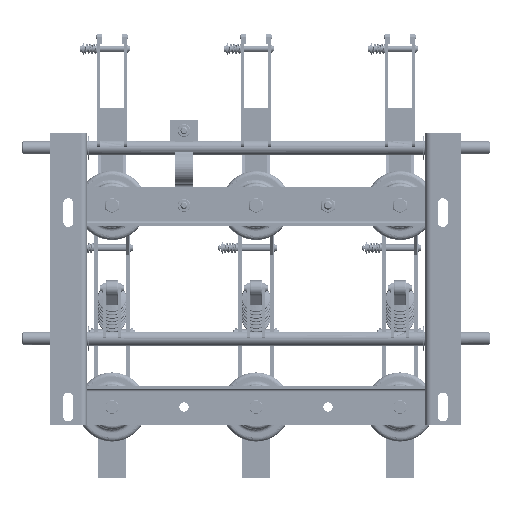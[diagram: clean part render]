
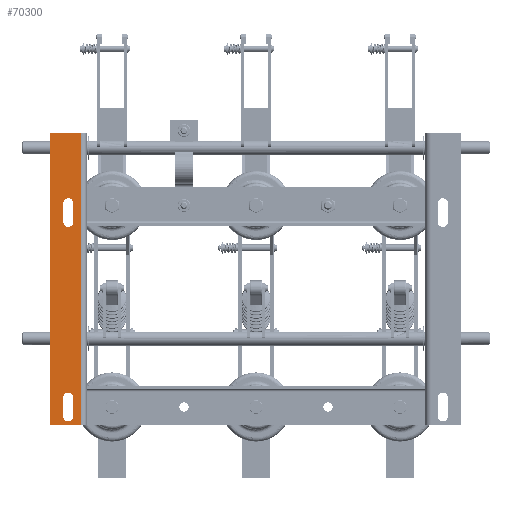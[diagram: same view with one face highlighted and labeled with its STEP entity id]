
A CAD part, front view. The second image highlights one B-rep face of the part: STEP entity #70300.
In plain terms, the highlighted planar face has unit normal (0, -1, 0).
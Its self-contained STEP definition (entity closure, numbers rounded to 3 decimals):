
#210 = EDGE_CURVE ( 'NONE', #73566, #49665, #24132, .T. ) ;
#1561 = CARTESIAN_POINT ( 'NONE',  ( -267.104, 0., -148. ) ) ;
#2037 = CARTESIAN_POINT ( 'NONE',  ( -285.604, 0., 245. ) ) ;
#6448 = DIRECTION ( 'NONE',  ( -1., 0., 0. ) ) ;
#10280 = CARTESIAN_POINT ( 'NONE',  ( -253.104, 0., 148. ) ) ;
#10648 = LINE ( 'NONE', #17092, #91267 ) ;
#10728 = DIRECTION ( 'NONE',  ( 0., 1., 0. ) ) ;
#11914 = ORIENTED_EDGE ( 'NONE', *, *, #118440, .T. ) ;
#13062 = DIRECTION ( 'NONE',  ( 0., 0., 1. ) ) ;
#15830 = CARTESIAN_POINT ( 'NONE',  ( -260.104, 0., 148. ) ) ;
#17092 = CARTESIAN_POINT ( 'NONE',  ( -267.104, 0., -148. ) ) ;
#18854 = EDGE_CURVE ( 'NONE', #115758, #39738, #23468, .T. ) ;
#19678 = CARTESIAN_POINT ( 'NONE',  ( -285.604, 0., -160. ) ) ;
#20062 = DIRECTION ( 'NONE',  ( 0., 1., 0. ) ) ;
#20146 = CARTESIAN_POINT ( 'NONE',  ( -253.104, 0., 148. ) ) ;
#20195 = VECTOR ( 'NONE', #98412, 1000. ) ;
#21048 = VERTEX_POINT ( 'NONE', #57955 ) ;
#21140 = EDGE_CURVE ( 'NONE', #101787, #73566, #10648, .T. ) ;
#21318 = EDGE_CURVE ( 'NONE', #110273, #101787, #110834, .T. ) ;
#23468 = LINE ( 'NONE', #87909, #20195 ) ;
#24132 = CIRCLE ( 'NONE', #34368, 7. ) ;
#26452 = DIRECTION ( 'NONE',  ( -1., 0., 0. ) ) ;
#26827 = CARTESIAN_POINT ( 'NONE',  ( -253.104, 0., -122. ) ) ;
#30986 = ORIENTED_EDGE ( 'NONE', *, *, #45305, .T. ) ;
#32024 = CIRCLE ( 'NONE', #55018, 7. ) ;
#34368 = AXIS2_PLACEMENT_3D ( 'NONE', #95433, #91247, #38875 ) ;
#35330 = FACE_BOUND ( 'NONE', #66483, .T. ) ;
#38875 = DIRECTION ( 'NONE',  ( -1., 0., 0. ) ) ;
#39738 = VERTEX_POINT ( 'NONE', #2037 ) ;
#39787 = CARTESIAN_POINT ( 'NONE',  ( -260.104, 0., -148. ) ) ;
#41288 = VERTEX_POINT ( 'NONE', #127106 ) ;
#44867 = VERTEX_POINT ( 'NONE', #10280 ) ;
#45305 = EDGE_CURVE ( 'NONE', #128411, #62208, #77574, .T. ) ;
#46439 = EDGE_LOOP ( 'NONE', ( #89959, #30986, #11914, #89077 ) ) ;
#49665 = VERTEX_POINT ( 'NONE', #97365 ) ;
#49784 = CARTESIAN_POINT ( 'NONE',  ( -267.104, 0., 122. ) ) ;
#50382 = DIRECTION ( 'NONE',  ( 1., 0., 0. ) ) ;
#55018 = AXIS2_PLACEMENT_3D ( 'NONE', #15830, #89412, #26452 ) ;
#57955 = CARTESIAN_POINT ( 'NONE',  ( -242.4, 0., 245. ) ) ;
#60227 = CARTESIAN_POINT ( 'NONE',  ( -285.604, 0., 245. ) ) ;
#60277 = DIRECTION ( 'NONE',  ( 0., 0., 1. ) ) ;
#62208 = VERTEX_POINT ( 'NONE', #82608 ) ;
#63222 = FACE_OUTER_BOUND ( 'NONE', #100331, .T. ) ;
#63892 = ORIENTED_EDGE ( 'NONE', *, *, #103838, .T. ) ;
#66483 = EDGE_LOOP ( 'NONE', ( #74795, #117917, #66573, #63892 ) ) ;
#66573 = ORIENTED_EDGE ( 'NONE', *, *, #210, .T. ) ;
#70300 = ADVANCED_FACE ( 'NONE', ( #63222, #35330, #91241 ), #93075, .F. ) ;
#73566 = VERTEX_POINT ( 'NONE', #111766 ) ;
#73697 = CARTESIAN_POINT ( 'NONE',  ( -260.104, 0., 122. ) ) ;
#74795 = ORIENTED_EDGE ( 'NONE', *, *, #21318, .T. ) ;
#77574 = LINE ( 'NONE', #49784, #98895 ) ;
#78408 = CARTESIAN_POINT ( 'NONE',  ( -242.4, 0., -160. ) ) ;
#80818 = ORIENTED_EDGE ( 'NONE', *, *, #91536, .F. ) ;
#82332 = EDGE_CURVE ( 'NONE', #39738, #21048, #115555, .T. ) ;
#82608 = CARTESIAN_POINT ( 'NONE',  ( -267.104, 0., 148. ) ) ;
#82999 = CARTESIAN_POINT ( 'NONE',  ( -285.604, 0., 47.5 ) ) ;
#84307 = DIRECTION ( 'NONE',  ( 1., 0., 0. ) ) ;
#87408 = VERTEX_POINT ( 'NONE', #78408 ) ;
#87726 = VECTOR ( 'NONE', #123077, 1000. ) ;
#87909 = CARTESIAN_POINT ( 'NONE',  ( -285.604, 0., -160. ) ) ;
#89077 = ORIENTED_EDGE ( 'NONE', *, *, #109367, .T. ) ;
#89412 = DIRECTION ( 'NONE',  ( 0., 1., 0. ) ) ;
#89959 = ORIENTED_EDGE ( 'NONE', *, *, #134748, .T. ) ;
#90179 = EDGE_CURVE ( 'NONE', #87408, #21048, #127899, .T. ) ;
#90344 = CARTESIAN_POINT ( 'NONE',  ( -267.104, 0., 122. ) ) ;
#90570 = CARTESIAN_POINT ( 'NONE',  ( -242.4, 0., -160. ) ) ;
#91241 = FACE_BOUND ( 'NONE', #46439, .T. ) ;
#91247 = DIRECTION ( 'NONE',  ( 0., 1., 0. ) ) ;
#91267 = VECTOR ( 'NONE', #101569, 1000. ) ;
#91536 = EDGE_CURVE ( 'NONE', #87408, #115758, #132136, .T. ) ;
#93075 = PLANE ( 'NONE',  #104284 ) ;
#93519 = DIRECTION ( 'NONE',  ( 1., 0., 0. ) ) ;
#93611 = DIRECTION ( 'NONE',  ( 0., 0., -1. ) ) ;
#93746 = ORIENTED_EDGE ( 'NONE', *, *, #90179, .T. ) ;
#95205 = LINE ( 'NONE', #20146, #119789 ) ;
#95433 = CARTESIAN_POINT ( 'NONE',  ( -260.104, 0., -122. ) ) ;
#96227 = ORIENTED_EDGE ( 'NONE', *, *, #18854, .F. ) ;
#96665 = CARTESIAN_POINT ( 'NONE',  ( -242.4, 0., -160. ) ) ;
#97365 = CARTESIAN_POINT ( 'NONE',  ( -253.104, 0., -122. ) ) ;
#98412 = DIRECTION ( 'NONE',  ( 0., 0., 1. ) ) ;
#98895 = VECTOR ( 'NONE', #60277, 1000. ) ;
#100026 = VECTOR ( 'NONE', #13062, 1000. ) ;
#100331 = EDGE_LOOP ( 'NONE', ( #93746, #123901, #96227, #80818 ) ) ;
#100746 = VECTOR ( 'NONE', #131957, 1000. ) ;
#101569 = DIRECTION ( 'NONE',  ( 0., 0., 1. ) ) ;
#101736 = AXIS2_PLACEMENT_3D ( 'NONE', #39787, #113191, #50382 ) ;
#101787 = VERTEX_POINT ( 'NONE', #1561 ) ;
#103838 = EDGE_CURVE ( 'NONE', #49665, #110273, #128605, .T. ) ;
#104226 = VECTOR ( 'NONE', #6448, 1000. ) ;
#104284 = AXIS2_PLACEMENT_3D ( 'NONE', #82999, #20062, #93519 ) ;
#108299 = CIRCLE ( 'NONE', #115317, 7. ) ;
#109367 = EDGE_CURVE ( 'NONE', #44867, #41288, #95205, .T. ) ;
#110273 = VERTEX_POINT ( 'NONE', #126855 ) ;
#110834 = CIRCLE ( 'NONE', #101736, 7. ) ;
#111766 = CARTESIAN_POINT ( 'NONE',  ( -267.104, 0., -122. ) ) ;
#113191 = DIRECTION ( 'NONE',  ( 0., 1., 0. ) ) ;
#115317 = AXIS2_PLACEMENT_3D ( 'NONE', #73697, #10728, #84307 ) ;
#115555 = LINE ( 'NONE', #60227, #87726 ) ;
#115758 = VERTEX_POINT ( 'NONE', #19678 ) ;
#117917 = ORIENTED_EDGE ( 'NONE', *, *, #21140, .T. ) ;
#118440 = EDGE_CURVE ( 'NONE', #62208, #44867, #32024, .T. ) ;
#119789 = VECTOR ( 'NONE', #93611, 1000. ) ;
#123077 = DIRECTION ( 'NONE',  ( 1., 0., 0. ) ) ;
#123901 = ORIENTED_EDGE ( 'NONE', *, *, #82332, .F. ) ;
#126855 = CARTESIAN_POINT ( 'NONE',  ( -253.104, 0., -148. ) ) ;
#127106 = CARTESIAN_POINT ( 'NONE',  ( -253.104, 0., 122. ) ) ;
#127899 = LINE ( 'NONE', #96665, #100026 ) ;
#128411 = VERTEX_POINT ( 'NONE', #90344 ) ;
#128605 = LINE ( 'NONE', #26827, #100746 ) ;
#131957 = DIRECTION ( 'NONE',  ( 0., 0., -1. ) ) ;
#132136 = LINE ( 'NONE', #90570, #104226 ) ;
#134748 = EDGE_CURVE ( 'NONE', #41288, #128411, #108299, .T. ) ;
